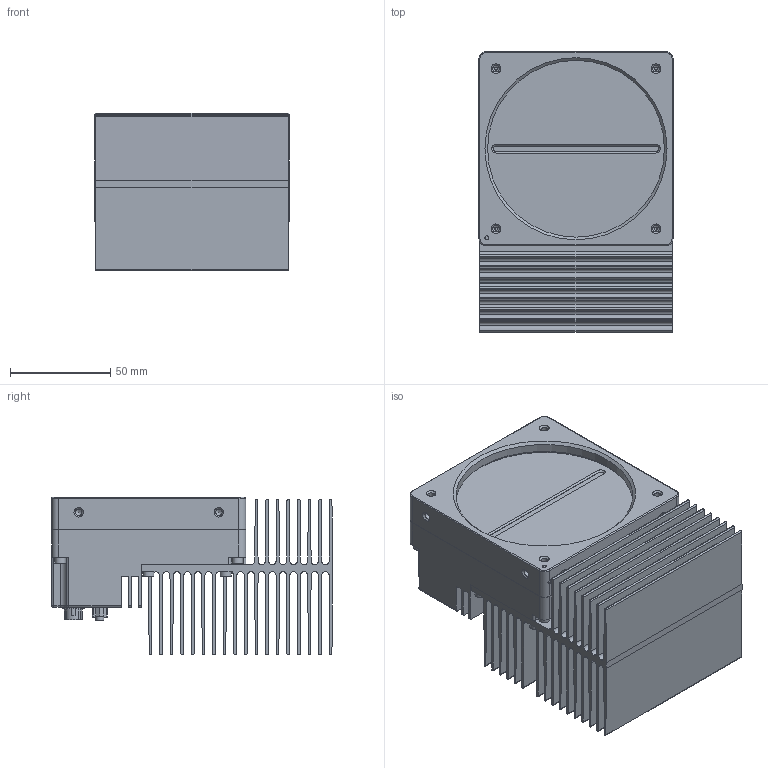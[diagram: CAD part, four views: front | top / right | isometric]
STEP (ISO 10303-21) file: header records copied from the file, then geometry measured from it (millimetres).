
FILE_DESCRIPTION(/* description */ ('16K HS CUSTOMER DRAWING'),/* implementation_level */ '2;1');
FILE_NAME(/* name */ 'C:\_01_DME_Vault\_01_DME_Vault_Projects\Liberty Color\03-129-20191-00 LIBERTY COLOR 16K HS CUSTOMER DRAWING\03-129-20191-00 LIBERTY COLOR 16K HS USER 3D MODEL.stp',/* time_stamp */ '2016-07-06T10:29:37-04:00',/* author */ ('jiang'),/* organization */ (''),/* preprocessor_version */ 'ST-DEVELOPER v15.2',/* originating_system */ 'Autodesk Inventor 2014',/* authorisation */ '');
FILE_SCHEMA (('AUTOMOTIVE_DESIGN { 1 0 10303 214 3 1 1 }'));
Products named in the file (1): 03-129-20191-00 LIBERTY COLOR 16K HS MODEL FOR STEP FILE
Bounding box: 97 x 140.21 x 78.7 mm (x, y, z)
Volume: 307164.8 mm3; surface area: 295463.1 mm2
Topology: 2 solids, 10 shells, 4311 faces, 11681 edges, 7755 vertices
Faces by surface type: plane 2889, bspline 801, cylinder 550, cone 60, torus 6, sphere 5
Full cylindrical faces by diameter (mm): 0.53 x7, 1.567 x4, 2 x2, 2.013 x4, 2.459 x8, 2.845 x1, 2.92 x1, 3 x12, 3.2 x8, 3.242 x12, 3.4 x4, 4 x4, 5.5 x8, 8 x1, 8.77 x1, 11 x1, 88.376 x1, 91 x1
Entity records: 145033 total; most frequent: CARTESIAN_POINT 36940, ORIENTED_EDGE 22980, DIRECTION 18274, EDGE_CURVE 11490, LINE 8688, VECTOR 8688, VERTEX_POINT 7702, EDGE_LOOP 4843
